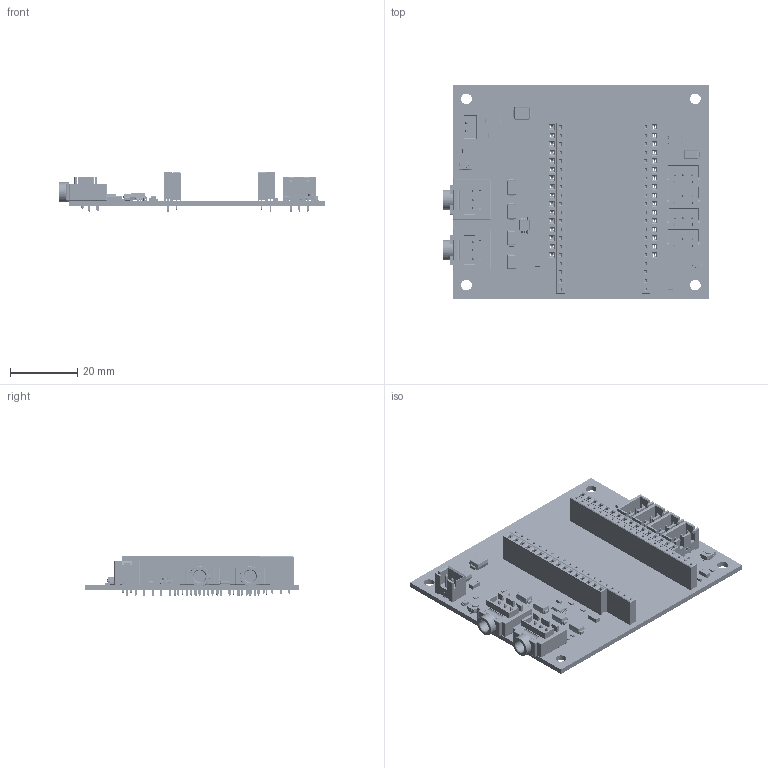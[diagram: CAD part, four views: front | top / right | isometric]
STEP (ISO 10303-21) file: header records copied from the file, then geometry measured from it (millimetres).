
FILE_DESCRIPTION(('Designed by EasyEDA Pro'),'2;1');
FILE_NAME('Open CASCADE Shape Model','2026-11-01T13:23:27',('Author'),( 'Open CASCADE'),'Open CASCADE STEP processor 7.8','Open CASCADE 7.8' ,'Unknown');
FILE_SCHEMA(('AUTOMOTIVE_DESIGN { 1 0 10303 214 1 1 1 1 }'));
Length unit declared in the file: millimetre
Products named in the file (81): EasyEDA PCB Model~RhzK; Board~RhzK; TopCopper~RhzK; BottomCopper~RhzK; TopSilkscreen~RhzK; BottomSilkscreen~RhzK; TopFpcStiffener~RhzK; BottomFpcStiffener~RhzK; C0603~C0603_L1.6-W0.8-H0.8~DNVC; C1~C0603~C0603_L1.6-W0.8-H0.8~uJyz; C2~C0603~C0603_L1.6-W0.8-H0.8~RFEW; C13~C0603~C0603_L1.6-W0.8-H0.8~7vlh; C3~C0603~C0603_L1.6-W0.8-H0.8~Ogye; C4~C0603~C0603_L1.6-W0.8-H0.8~7bUC; C5~C0603~C0603_L1.6-W0.8-H0.8~BZ2O; C14~C0603~C0603_L1.6-W0.8-H0.8~LUh3; C6~C0603~C0603_L1.6-W0.8-H0.8~nv8n; R0603~R0603~D77a; R19~R0603~R0603~irVT; R10~R0603~R0603~2xS3; R11~R0603~R0603~jSnW; R18~R0603~R0603~ktgk; R17~R0603~R0603~QhBf; R16~R0603~R0603~3W2Z; R15~R0603~R0603~QRm7; R14~R0603~R0603~AMMH; R12~R0603~R0603~nCTs; R13~R0603~R0603~HoOJ; R8~R0603~R0603~llKq; R3~R0603~R0603~PyBp; R4~R0603~R0603~xb4f; R5~R0603~R0603~2wsT; R6~R0603~R0603~WqMC; R7~R0603~R0603~Y2A0; R2~R0603~R0603~JbFt; R1~R0603~R0603~Xgey; R9~R0603~R0603~WoIh; F1206~F1206_L3.2-W1.7-H0.6~MfdZ; F1~F1206~F1206_L3.2-W1.7-H0.6~VLPu; SW-SMD_L3.9-W3.0-P4.45~SW-SMD_L3.9-W2.9-H2.0-LS4.8~QrZG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
Assembly tree (121 placements, depth 3):
  EasyEDA PCB Model~RhzK
    Board~RhzK
    TopCopper~RhzK
    BottomCopper~RhzK
    TopSilkscreen~RhzK
    BottomSilkscreen~RhzK
    TopFpcStiffener~RhzK
    BottomFpcStiffener~RhzK
    C1~C0603~C0603_L1.6-W0.8-H0.8~uJyz
      C0603~C0603_L1.6-W0.8-H0.8~DNVC
    C2~C0603~C0603_L1.6-W0.8-H0.8~RFEW
      C0603~C0603_L1.6-W0.8-H0.8~DNVC
    C13~C0603~C0603_L1.6-W0.8-H0.8~7vlh
      C0603~C0603_L1.6-W0.8-H0.8~DNVC
    C3~C0603~C0603_L1.6-W0.8-H0.8~Ogye
      C0603~C0603_L1.6-W0.8-H0.8~DNVC
    C4~C0603~C0603_L1.6-W0.8-H0.8~7bUC
      C0603~C0603_L1.6-W0.8-H0.8~DNVC
    C5~C0603~C0603_L1.6-W0.8-H0.8~BZ2O
      C0603~C0603_L1.6-W0.8-H0.8~DNVC
    C14~C0603~C0603_L1.6-W0.8-H0.8~LUh3
      C0603~C0603_L1.6-W0.8-H0.8~DNVC
    C6~C0603~C0603_L1.6-W0.8-H0.8~nv8n
      C0603~C0603_L1.6-W0.8-H0.8~DNVC
    R19~R0603~R0603~irVT
      R0603~R0603~D77a
    R10~R0603~R0603~2xS3
      R0603~R0603~D77a
    R11~R0603~R0603~jSnW
      R0603~R0603~D77a
    R18~R0603~R0603~ktgk
      R0603~R0603~D77a
    R17~R0603~R0603~QhBf
      R0603~R0603~D77a
    R16~R0603~R0603~3W2Z
      R0603~R0603~D77a
    R15~R0603~R0603~QRm7
      R0603~R0603~D77a
    R14~R0603~R0603~AMMH
      R0603~R0603~D77a
    R12~R0603~R0603~nCTs
      R0603~R0603~D77a
    R13~R0603~R0603~HoOJ
      R0603~R0603~D77a
    R8~R0603~R0603~llKq
      R0603~R0603~D77a
    R3~R0603~R0603~PyBp
      R0603~R0603~D77a
    R4~R0603~R0603~xb4f
      R0603~R0603~D77a
    R5~R0603~R0603~2wsT
      R0603~R0603~D77a
    R6~R0603~R0603~WqMC
      R0603~R0603~D77a
    R7~R0603~R0603~Y2A0
      R0603~R0603~D77a
    R2~R0603~R0603~JbFt
      R0603~R0603~D77a
    R1~R0603~R0603~Xgey
      R0603~R0603~D77a
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Bounding box: 79.09 x 63.47 x 11.8 mm (x, y, z)
Volume: 13942.1 mm3; surface area: 23629.2 mm2
Topology: 382 solids, 382 shells, 20308 faces, 53814 edges, 35118 vertices
Faces by surface type: plane 12604, bspline 5968, cylinder 1388, sphere 212, torus 128, cone 8
Entity records: 304864 total; most frequent: CARTESIAN_POINT 70334, ORIENTED_EDGE 36370, DIRECTION 26863, EDGE_CURVE 18185, LINE 12701, VECTOR 12701, VERTEX_POINT 11716, EDGE_LOOP 7701
